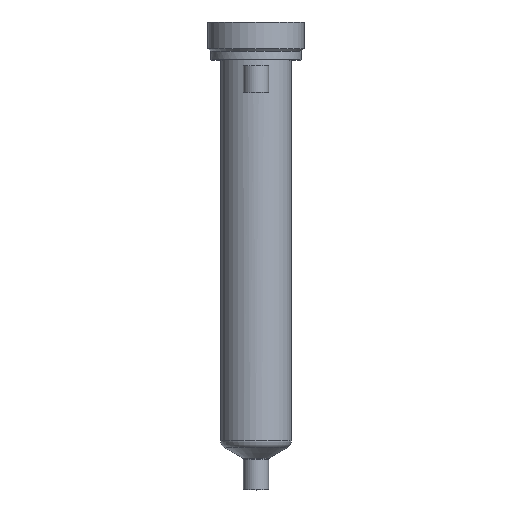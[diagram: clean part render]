
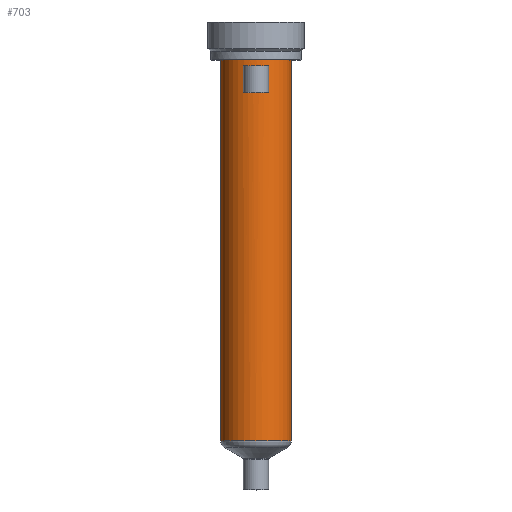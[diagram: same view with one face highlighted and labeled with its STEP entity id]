
A CAD part, top view. The second image highlights one B-rep face of the part: STEP entity #703.
In plain terms, the highlighted cylindrical face has radius 14 mm (diameter 28 mm), a partial arc.
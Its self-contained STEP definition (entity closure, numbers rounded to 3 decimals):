
#195=DIRECTION('',(0.,-1.,0.));
#196=VECTOR('',#195,150.583);
#197=CARTESIAN_POINT('',(14.,0.,0.));
#198=LINE('',#197,#196);
#199=CARTESIAN_POINT('',(0.,-150.583,0.));
#200=DIRECTION('',(0.,1.,0.));
#201=DIRECTION('',(-1.,0.,0.));
#202=AXIS2_PLACEMENT_3D('',#199,#200,#201);
#204=DIRECTION('',(0.,1.,0.));
#205=VECTOR('',#204,150.583);
#206=CARTESIAN_POINT('',(-14.,-150.583,0.));
#207=LINE('',#206,#205);
#208=CARTESIAN_POINT('',(0.,0.,0.));
#209=DIRECTION('',(0.,1.,0.));
#210=DIRECTION('',(-1.,0.,0.));
#211=AXIS2_PLACEMENT_3D('',#208,#209,#210);
#289=DIRECTION('',(0.,-1.,0.));
#290=VECTOR('',#289,10.5);
#291=CARTESIAN_POINT('',(-5.,-2.5,13.077));
#292=LINE('',#291,#290);
#297=CARTESIAN_POINT('',(0.,-13.,0.));
#298=DIRECTION('',(0.,1.,0.));
#299=DIRECTION('',(-0.357,0.,0.934));
#300=AXIS2_PLACEMENT_3D('',#297,#298,#299);
#332=CARTESIAN_POINT('',(0.,-2.5,0.));
#333=DIRECTION('',(0.,-1.,0.));
#334=DIRECTION('',(0.357,0.,0.934));
#335=AXIS2_PLACEMENT_3D('',#332,#333,#334);
#337=DIRECTION('',(0.,-1.,0.));
#338=VECTOR('',#337,10.5);
#339=CARTESIAN_POINT('',(5.,-2.5,13.077));
#340=LINE('',#339,#338);
#398=CARTESIAN_POINT('',(-14.,0.,0.));
#399=CARTESIAN_POINT('',(14.,0.,0.));
#400=VERTEX_POINT('',#398);
#401=VERTEX_POINT('',#399);
#410=CARTESIAN_POINT('',(5.,-2.5,13.077));
#411=VERTEX_POINT('',#410);
#412=CARTESIAN_POINT('',(-5.,-2.5,13.077));
#413=VERTEX_POINT('',#412);
#450=CARTESIAN_POINT('',(14.,-150.583,0.));
#451=VERTEX_POINT('',#450);
#460=CARTESIAN_POINT('',(-14.,-150.583,0.));
#461=VERTEX_POINT('',#460);
#462=CARTESIAN_POINT('',(-5.,-13.,13.077));
#463=CARTESIAN_POINT('',(5.,-13.,13.077));
#464=VERTEX_POINT('',#462);
#465=VERTEX_POINT('',#463);
#681=CARTESIAN_POINT('',(0.,16.4,0.));
#682=DIRECTION('',(0.,-1.,0.));
#683=DIRECTION('',(-1.,0.,0.));
#684=AXIS2_PLACEMENT_3D('',#681,#682,#683);
#685=CYLINDRICAL_SURFACE('',#684,14.);
#686=ORIENTED_EDGE('',*,*,#675,.T.);
#688=ORIENTED_EDGE('',*,*,#687,.F.);
#689=ORIENTED_EDGE('',*,*,#671,.T.);
#690=ORIENTED_EDGE('',*,*,#661,.T.);
#691=EDGE_LOOP('',(#686,#688,#689,#690));
#692=FACE_OUTER_BOUND('',#691,.F.);
#694=ORIENTED_EDGE('',*,*,#693,.T.);
#696=ORIENTED_EDGE('',*,*,#695,.T.);
#698=ORIENTED_EDGE('',*,*,#697,.F.);
#700=ORIENTED_EDGE('',*,*,#699,.T.);
#701=EDGE_LOOP('',(#694,#696,#698,#700));
#702=FACE_BOUND('',#701,.F.);
#703=ADVANCED_FACE('',(#692,#702),#685,.T.);
#203=CIRCLE('',#202,14.);
#212=CIRCLE('',#211,14.);
#301=CIRCLE('',#300,14.);
#336=CIRCLE('',#335,14.);
#661=EDGE_CURVE('',#400,#401,#212,.T.);
#671=EDGE_CURVE('',#461,#400,#207,.T.);
#675=EDGE_CURVE('',#401,#451,#198,.T.);
#687=EDGE_CURVE('',#461,#451,#203,.T.);
#693=EDGE_CURVE('',#413,#464,#292,.T.);
#695=EDGE_CURVE('',#464,#465,#301,.T.);
#697=EDGE_CURVE('',#411,#465,#340,.T.);
#699=EDGE_CURVE('',#411,#413,#336,.T.);
